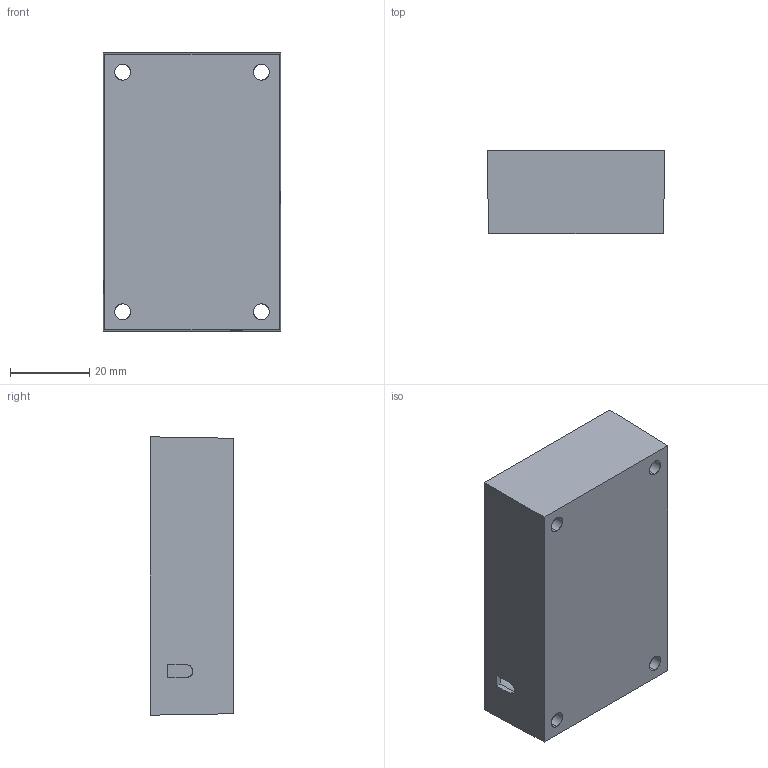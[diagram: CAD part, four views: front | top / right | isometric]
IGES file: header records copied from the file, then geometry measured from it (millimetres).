
Start section: SolidWorks IGES file using analytic representation for surfaces
Global section: file name: S:\Engineering Projects\VOICE #304 FILES\90292.IGS; native system: SolidWorks 2013; preprocessor: SolidWorks 2013; author: Davef; date: 140310.153535; units: inch
Bounding box: 44.75 x 20.95 x 70.1 mm (x, y, z)
Surface area: 24566.7 mm2 (no closed solid volume)
Topology: 0 solids, 0 shells, 327 faces, 4097 edges, 4097 vertices
Faces by surface type: bspline 308, revolution 19
